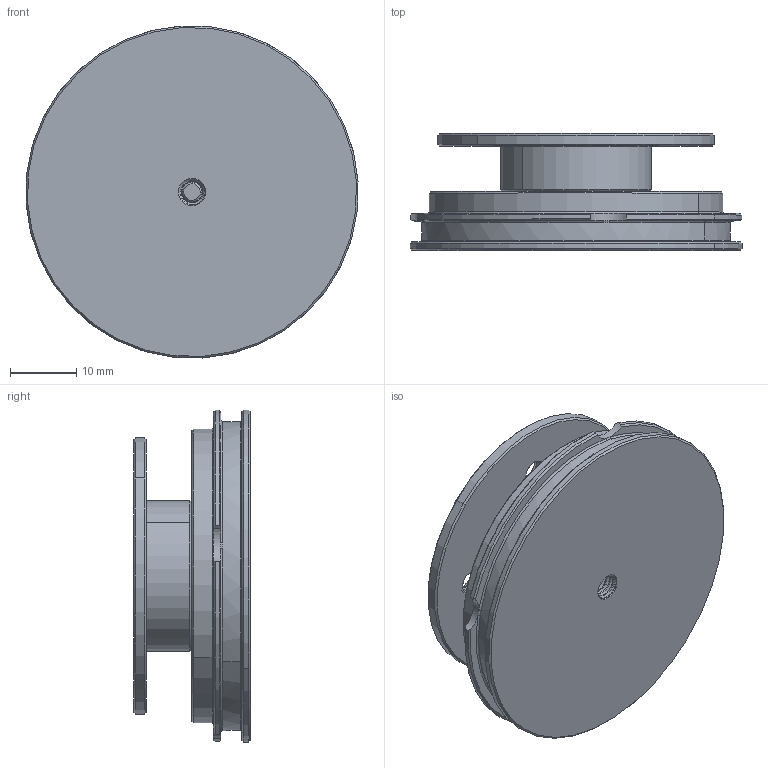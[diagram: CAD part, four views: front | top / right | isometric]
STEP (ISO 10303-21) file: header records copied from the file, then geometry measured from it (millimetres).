
FILE_DESCRIPTION((''),'2;1');
FILE_NAME('LB30-B_ASM','2024-08-10T16:33:31',('R&D'),(''),'CREO PARAMETRIC BY PTC INC, 2021063','CREO PARAMETRIC BY PTC INC, 2021063','');
FILE_SCHEMA(('CONFIG_CONTROL_DESIGN'));
Products named in the file (5): LB30-B-A2; LB30-B-A3; LB30-B-A1_ASM; ISO10642-M3X12-8_8; LB30-B_ASM
Assembly tree (4 placements, depth 3):
  LB30-B_ASM
    LB30-B-A1_ASM
      LB30-B-A2
      LB30-B-A3
    ISO10642-M3X12-8_8
Bounding box: 50.19 x 17.65 x 50.19 mm (x, y, z)
Volume: 19786.3 mm3; surface area: 10732.3 mm2
Topology: 3 solids, 3 shells, 589 faces, 1611 edges, 1024 vertices
Faces by surface type: cylinder 290, bspline 178, cone 92, plane 20, torus 9
Entity records: 52451 total; most frequent: CARTESIAN_POINT 39476, ORIENTED_EDGE 3190, DIRECTION 1856, EDGE_CURVE 1595, VERTEX_POINT 1024, B_SPLINE_CURVE_WITH_KNOTS 833, AXIS2_PLACEMENT_3D 672, EDGE_LOOP 621
